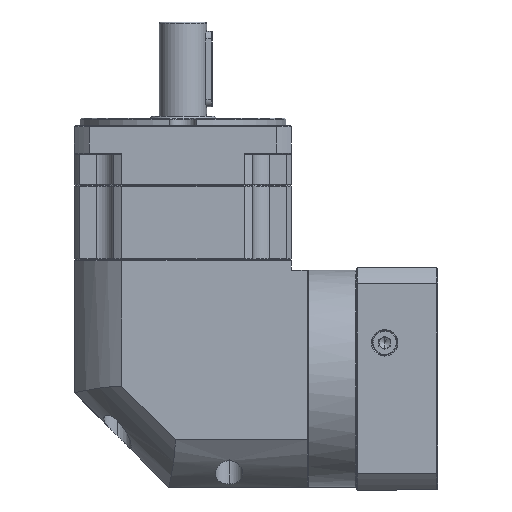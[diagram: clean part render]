
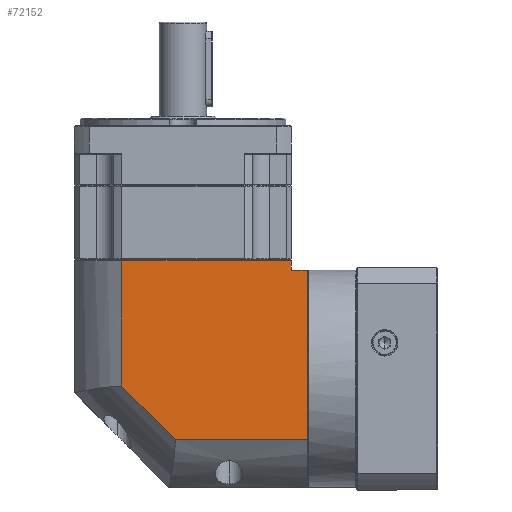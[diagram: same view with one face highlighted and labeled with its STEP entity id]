
A CAD part, left-side view. The second image highlights one B-rep face of the part: STEP entity #72152.
In plain terms, the highlighted planar face has unit normal (-1, 0, 0).
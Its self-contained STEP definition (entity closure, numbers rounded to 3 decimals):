
#1126 = ORIENTED_EDGE ( 'NONE', *, *, #16037, .F. ) ;
#1250 = ORIENTED_EDGE ( 'NONE', *, *, #155078, .T. ) ;
#3944 = ORIENTED_EDGE ( 'NONE', *, *, #96389, .T. ) ;
#11076 = CARTESIAN_POINT ( 'NONE',  ( -280.587, 27.528, 1.971 ) ) ;
#11959 = CARTESIAN_POINT ( 'NONE',  ( -280.587, 52.629, 75.032 ) ) ;
#16037 = EDGE_CURVE ( 'NONE', #137179, #154084, #113988, .T. ) ;
#23920 = VERTEX_POINT ( 'NONE', #126781 ) ;
#24613 = LINE ( 'NONE', #54047, #163006 ) ;
#25393 = DIRECTION ( 'NONE',  ( 0., 1., 0. ) ) ;
#30835 = FACE_OUTER_BOUND ( 'NONE', #97923, .T. ) ;
#30979 = DIRECTION ( 'NONE',  ( 0., 0.707, 0.707 ) ) ;
#31171 = EDGE_CURVE ( 'NONE', #154084, #23920, #170821, .T. ) ;
#34915 = CARTESIAN_POINT ( 'NONE',  ( -280.587, -70.771, 63.532 ) ) ;
#43193 = LINE ( 'NONE', #130636, #118740 ) ;
#43783 = LINE ( 'NONE', #146960, #106682 ) ;
#48900 = CARTESIAN_POINT ( 'NONE',  ( -280.587, -0.81, -26.368 ) ) ;
#52925 = ORIENTED_EDGE ( 'NONE', *, *, #146577, .F. ) ;
#54047 = CARTESIAN_POINT ( 'NONE',  ( -280.587, -62.371, -51.468 ) ) ;
#59919 = CARTESIAN_POINT ( 'NONE',  ( -280.587, 27.528, 75.032 ) ) ;
#63078 = LINE ( 'NONE', #141408, #134325 ) ;
#63941 = VECTOR ( 'NONE', #73425, 1000. ) ;
#71281 = CARTESIAN_POINT ( 'NONE',  ( -280.587, 52.629, 68.532 ) ) ;
#72152 = ADVANCED_FACE ( 'NONE', ( #30835 ), #118656, .F. ) ;
#73425 = DIRECTION ( 'NONE',  ( 0., 0., 1. ) ) ;
#77402 = DIRECTION ( 'NONE',  ( 0., 1., 0. ) ) ;
#77463 = VERTEX_POINT ( 'NONE', #95701 ) ;
#78678 = EDGE_CURVE ( 'NONE', #148133, #137179, #63078, .T. ) ;
#84416 = CARTESIAN_POINT ( 'NONE',  ( -280.587, -0.81, -26.368 ) ) ;
#84799 = DIRECTION ( 'NONE',  ( 0., -1., 0. ) ) ;
#86125 = ORIENTED_EDGE ( 'NONE', *, *, #31171, .F. ) ;
#88364 = ORIENTED_EDGE ( 'NONE', *, *, #137092, .F. ) ;
#95701 = CARTESIAN_POINT ( 'NONE',  ( -280.587, -62.371, 63.532 ) ) ;
#96389 = EDGE_CURVE ( 'NONE', #77463, #149103, #24613, .T. ) ;
#97923 = EDGE_LOOP ( 'NONE', ( #86125, #1126, #147803, #52925, #1250, #3944, #88364 ) ) ;
#100886 = AXIS2_PLACEMENT_3D ( 'NONE', #11959, #105737, #25393 ) ;
#105737 = DIRECTION ( 'NONE',  ( 1., 0., 0. ) ) ;
#106682 = VECTOR ( 'NONE', #160456, 1000. ) ;
#109794 = VECTOR ( 'NONE', #30979, 1000. ) ;
#113988 = LINE ( 'NONE', #84416, #109794 ) ;
#117739 = VERTEX_POINT ( 'NONE', #34915 ) ;
#118448 = CARTESIAN_POINT ( 'NONE',  ( -280.587, -62.371, 68.532 ) ) ;
#118656 = PLANE ( 'NONE',  #100886 ) ;
#118740 = VECTOR ( 'NONE', #77402, 1000. ) ;
#126781 = CARTESIAN_POINT ( 'NONE',  ( -280.587, 27.528, 68.532 ) ) ;
#130636 = CARTESIAN_POINT ( 'NONE',  ( -280.587, -62.371, 63.532 ) ) ;
#134325 = VECTOR ( 'NONE', #154365, 1000. ) ;
#137092 = EDGE_CURVE ( 'NONE', #23920, #149103, #147719, .T. ) ;
#137179 = VERTEX_POINT ( 'NONE', #48900 ) ;
#141408 = CARTESIAN_POINT ( 'NONE',  ( -280.587, 52.629, -26.368 ) ) ;
#143507 = VECTOR ( 'NONE', #84799, 1000. ) ;
#146577 = EDGE_CURVE ( 'NONE', #117739, #148133, #43783, .T. ) ;
#146960 = CARTESIAN_POINT ( 'NONE',  ( -280.587, -70.771, 75.032 ) ) ;
#147719 = LINE ( 'NONE', #71281, #143507 ) ;
#147723 = DIRECTION ( 'NONE',  ( 0., 0., 1. ) ) ;
#147803 = ORIENTED_EDGE ( 'NONE', *, *, #78678, .F. ) ;
#148133 = VERTEX_POINT ( 'NONE', #171488 ) ;
#149103 = VERTEX_POINT ( 'NONE', #118448 ) ;
#154084 = VERTEX_POINT ( 'NONE', #11076 ) ;
#154365 = DIRECTION ( 'NONE',  ( 0., 1., 0. ) ) ;
#155078 = EDGE_CURVE ( 'NONE', #117739, #77463, #43193, .T. ) ;
#160456 = DIRECTION ( 'NONE',  ( 0., 0., -1. ) ) ;
#163006 = VECTOR ( 'NONE', #147723, 1000. ) ;
#170821 = LINE ( 'NONE', #59919, #63941 ) ;
#171488 = CARTESIAN_POINT ( 'NONE',  ( -280.587, -70.771, -26.368 ) ) ;
